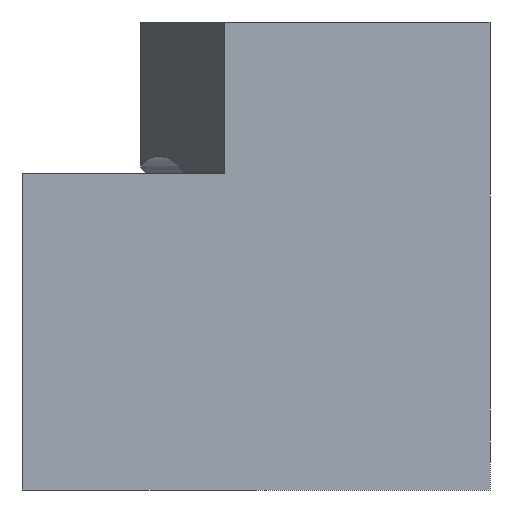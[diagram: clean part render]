
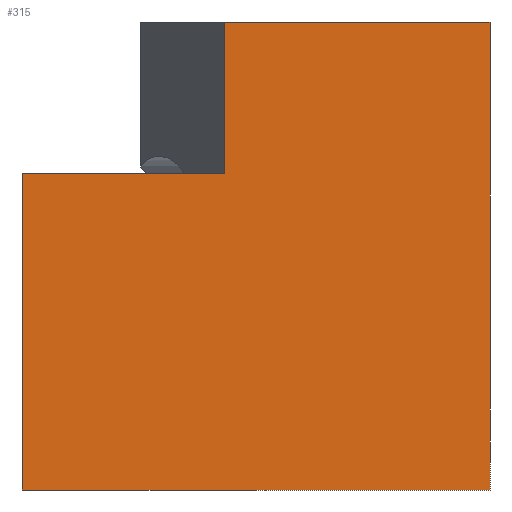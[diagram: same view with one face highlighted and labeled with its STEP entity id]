
A CAD part, left-side view. The second image highlights one B-rep face of the part: STEP entity #315.
In plain terms, the highlighted planar face has unit normal (-1, 0, 0).
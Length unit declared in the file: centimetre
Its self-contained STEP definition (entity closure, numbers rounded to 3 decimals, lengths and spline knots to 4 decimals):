
#2 = DIRECTION ( 'NONE',  ( 0., 0., -1. ) ) ;
#18 = VERTEX_POINT ( 'NONE', #242 ) ;
#25 = LINE ( 'NONE', #216, #170 ) ;
#34 = DIRECTION ( 'NONE',  ( 0., 0., -1. ) ) ;
#37 = CARTESIAN_POINT ( 'NONE',  ( 0., 1000., 1000. ) ) ;
#40 = CARTESIAN_POINT ( 'NONE',  ( 0., 568.253, 676.5379 ) ) ;
#74 = VECTOR ( 'NONE', #34, 100. ) ;
#100 = CARTESIAN_POINT ( 'NONE',  ( 0., 568.253, 1000. ) ) ;
#107 = LINE ( 'NONE', #37, #448 ) ;
#110 = DIRECTION ( 'NONE',  ( 0., -1., 0. ) ) ;
#111 = CARTESIAN_POINT ( 'NONE',  ( 0., 0., 1000. ) ) ;
#119 = VERTEX_POINT ( 'NONE', #100 ) ;
#141 = LINE ( 'NONE', #40, #452 ) ;
#148 = VERTEX_POINT ( 'NONE', #171 ) ;
#149 = EDGE_CURVE ( 'NONE', #18, #228, #460, .T. ) ;
#150 = LINE ( 'NONE', #422, #413 ) ;
#170 = VECTOR ( 'NONE', #248, 100. ) ;
#171 = CARTESIAN_POINT ( 'NONE',  ( 0., 1000., 676.5379 ) ) ;
#176 = EDGE_CURVE ( 'NONE', #469, #119, #25, .T. ) ;
#178 = DIRECTION ( 'NONE',  ( 0., 0., -1. ) ) ;
#179 = CARTESIAN_POINT ( 'NONE',  ( 0., 0., 0. ) ) ;
#188 = CARTESIAN_POINT ( 'NONE',  ( 0., 1000., 1000. ) ) ;
#200 = EDGE_LOOP ( 'NONE', ( #334, #236, #359, #265, #433, #415 ) ) ;
#206 = AXIS2_PLACEMENT_3D ( 'NONE', #188, #361, #2 ) ;
#216 = CARTESIAN_POINT ( 'NONE',  ( 0., 568.253, 676.5379 ) ) ;
#228 = VERTEX_POINT ( 'NONE', #179 ) ;
#236 = ORIENTED_EDGE ( 'NONE', *, *, #176, .F. ) ;
#242 = CARTESIAN_POINT ( 'NONE',  ( 0., 0., 1000. ) ) ;
#248 = DIRECTION ( 'NONE',  ( 0., 0., 1. ) ) ;
#258 = PLANE ( 'NONE',  #206 ) ;
#265 = ORIENTED_EDGE ( 'NONE', *, *, #449, .T. ) ;
#282 = CARTESIAN_POINT ( 'NONE',  ( 0., 1000., 0. ) ) ;
#283 = DIRECTION ( 'NONE',  ( 0., -1., 0. ) ) ;
#290 = CARTESIAN_POINT ( 'NONE',  ( 0., 568.253, 676.5379 ) ) ;
#293 = VERTEX_POINT ( 'NONE', #282 ) ;
#310 = VECTOR ( 'NONE', #110, 100. ) ;
#315 = ADVANCED_FACE ( 'NONE', ( #335 ), #258, .F. ) ;
#327 = LINE ( 'NONE', #425, #310 ) ;
#334 = ORIENTED_EDGE ( 'NONE', *, *, #428, .F. ) ;
#335 = FACE_OUTER_BOUND ( 'NONE', #200, .T. ) ;
#359 = ORIENTED_EDGE ( 'NONE', *, *, #424, .F. ) ;
#361 = DIRECTION ( 'NONE',  ( 1., 0., 0. ) ) ;
#413 = VECTOR ( 'NONE', #455, 100. ) ;
#415 = ORIENTED_EDGE ( 'NONE', *, *, #149, .F. ) ;
#417 = EDGE_CURVE ( 'NONE', #293, #228, #150, .T. ) ;
#422 = CARTESIAN_POINT ( 'NONE',  ( 0., 1000., 0. ) ) ;
#424 = EDGE_CURVE ( 'NONE', #148, #469, #141, .T. ) ;
#425 = CARTESIAN_POINT ( 'NONE',  ( 0., 1000., 1000. ) ) ;
#428 = EDGE_CURVE ( 'NONE', #119, #18, #327, .T. ) ;
#433 = ORIENTED_EDGE ( 'NONE', *, *, #417, .T. ) ;
#448 = VECTOR ( 'NONE', #178, 100. ) ;
#449 = EDGE_CURVE ( 'NONE', #148, #293, #107, .T. ) ;
#452 = VECTOR ( 'NONE', #283, 100. ) ;
#455 = DIRECTION ( 'NONE',  ( 0., -1., 0. ) ) ;
#460 = LINE ( 'NONE', #111, #74 ) ;
#469 = VERTEX_POINT ( 'NONE', #290 ) ;
